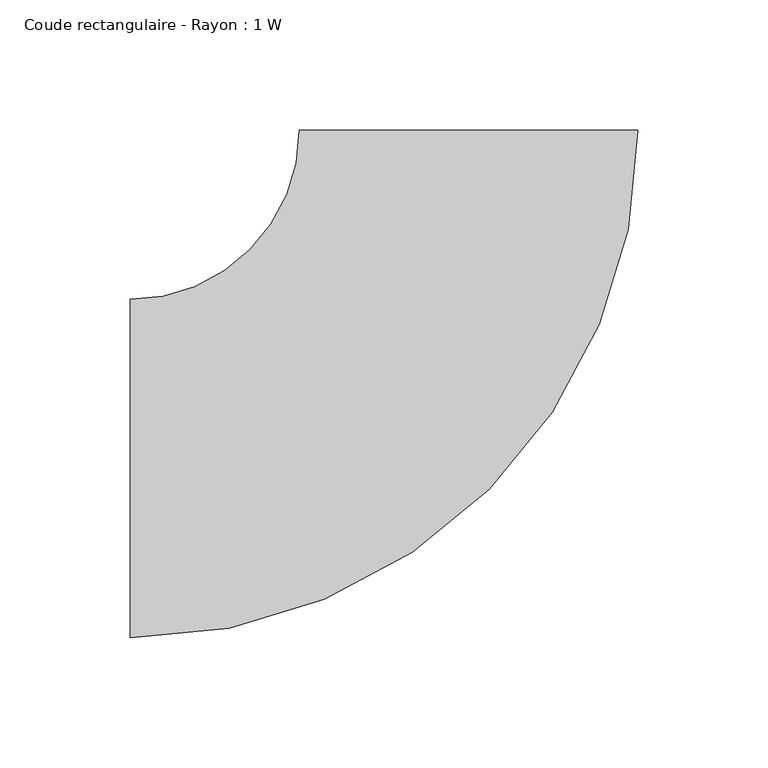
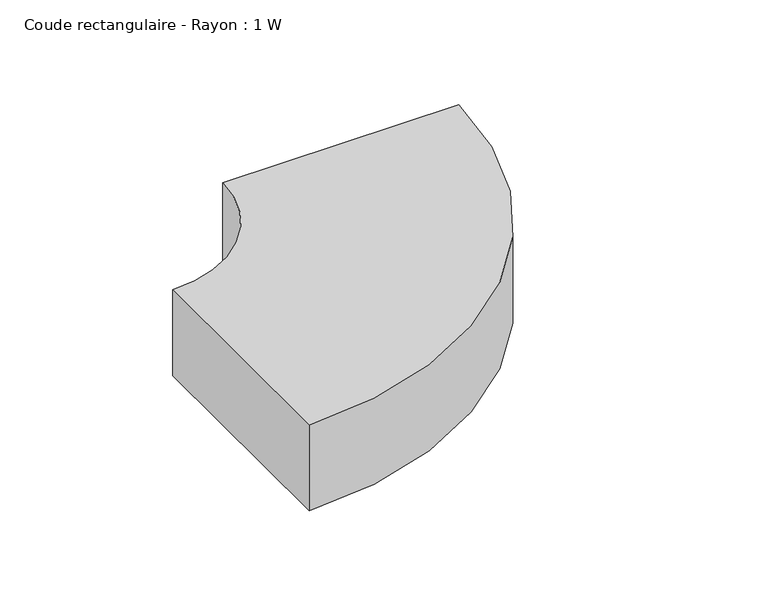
"""IFC4 building model written with IfcOpenShell, lengths in millimetres: duct fitting geometry, Coude rectangulaire - Rayon : 1 W."""

from ifc_helpers import new_model, si_unit, point, frame, frame_2d, origin, place, context, project, spatial, polyline, circle_curve, trimmed, segment, composite_curve, outline, extrude, source, transform, mapped, element, save


def coude_rectangulaire_rayon_1_w_bc62d8c9(model_context):
    return source(origin(), model_context, "Body", "SweptSolid", [
        extrude(outline(composite_curve([segment(trimmed(circle_curve(frame_2d((-130.0, 130.0)), 195.0), [point((65.0, 130.0))], [point((-130.0, -65.0))], False, "CARTESIAN"), True, "CONTINUOUS"), segment(polyline([(-130.0, -65.0), (-130.0, 65.0)]), True, "CONTINUOUS"), segment(trimmed(circle_curve(frame_2d((-130.0, 130.0)), 65.0), [point((-130.0, 65.0))], [point((-65.0, 130.0))], True, "CARTESIAN"), True, "CONTINUOUS"), segment(polyline([(-65.0, 130.0), (65.0, 130.0)]), True, "CONTINUOUS")], self_intersect=False)), frame((0.0, 0.0, -25.0), z_axis=(0.0, 0.0, 1.0), x_axis=(1.0, 0.0, 0.0)), (0.0, 0.0, 1.0), 50.0),
    ])


if __name__ == "__main__":
    model = new_model("IFC4")
    model_context = context("Model", 3, world=origin())
    ifc_project = project(units=[si_unit("LENGTHUNIT", "METRE", prefix="MILLI")], contexts=[model_context])
    site = spatial("IfcSite", under=ifc_project)
    building = spatial("IfcBuilding", under=site)
    placement = place(None, origin())
    coude_rectangulaire_rayon_1_w_shape = coude_rectangulaire_rayon_1_w_bc62d8c9(model_context)
    element("IfcDuctFitting", 1, ObjectType="Coude rectangulaire - Rayon : 1 W", at=placement, inside=building, context=model_context, shape_type="MappedRepresentation", body=[
        mapped(coude_rectangulaire_rayon_1_w_shape, transform((0.0, 0.0, 0.0), x_axis=(1.0, 0.0, 0.0), y_axis=(0.0, 1.0, 0.0), z_axis=(0.0, 0.0, 1.0))),
    ])
    save(model, "model.ifc")
